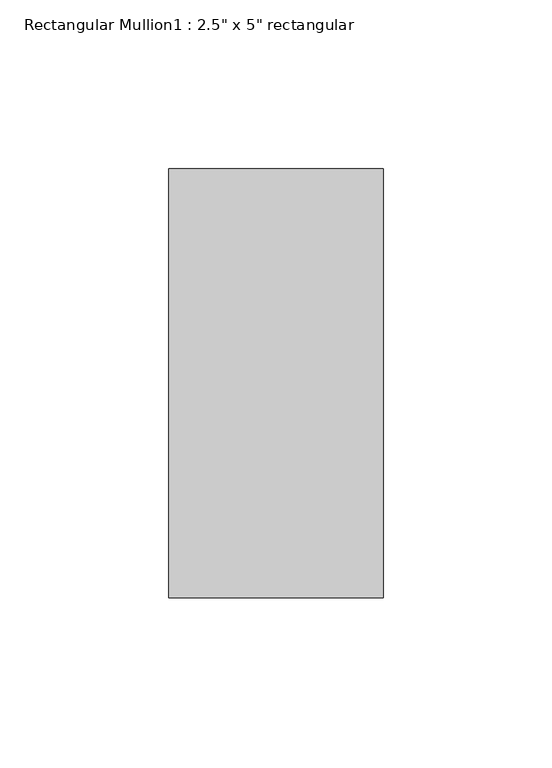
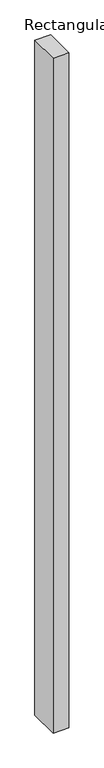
"""IFC4 building model written with IfcOpenShell, lengths in millimetres: member geometry."""

from ifc_helpers import new_model, si_unit, frame, origin, place, context, project, spatial, polyline, outline, extrude, source, transform, mapped, element, save


def member_e54787da(model_context):
    return source(origin(), model_context, "Body", "SweptSolid", [
        extrude(outline(polyline([(31.75, 63.5), (31.75, -63.5), (-31.75, -63.5), (-31.75, 63.5), (31.75, 63.5)])), frame((0.0, 0.0, -2884.17), z_axis=(0.0, 0.0, 1.0), x_axis=(1.0, 0.0, 0.0)), (0.0, 0.0, 1.0), 2884.17),
    ])


if __name__ == "__main__":
    model = new_model("IFC4")
    model_context = context("Model", 3, world=origin())
    ifc_project = project(units=[si_unit("LENGTHUNIT", "METRE", prefix="MILLI")], contexts=[model_context])
    site = spatial("IfcSite", under=ifc_project)
    building = spatial("IfcBuilding", under=site)
    placement = place(None, origin())
    member_shape = member_e54787da(model_context)
    element("IfcMember", 1, ObjectType="Rectangular Mullion1 : 2.5\" x 5\" rectangular", at=placement, inside=building, context=model_context, shape_type="MappedRepresentation", body=[
        mapped(member_shape, transform((0.0, 0.0, 0.0), x_axis=(1.0, 0.0, 0.0), y_axis=(0.0, 1.0, 0.0), z_axis=(0.0, 0.0, 1.0))),
    ])
    save(model, "model.ifc")
